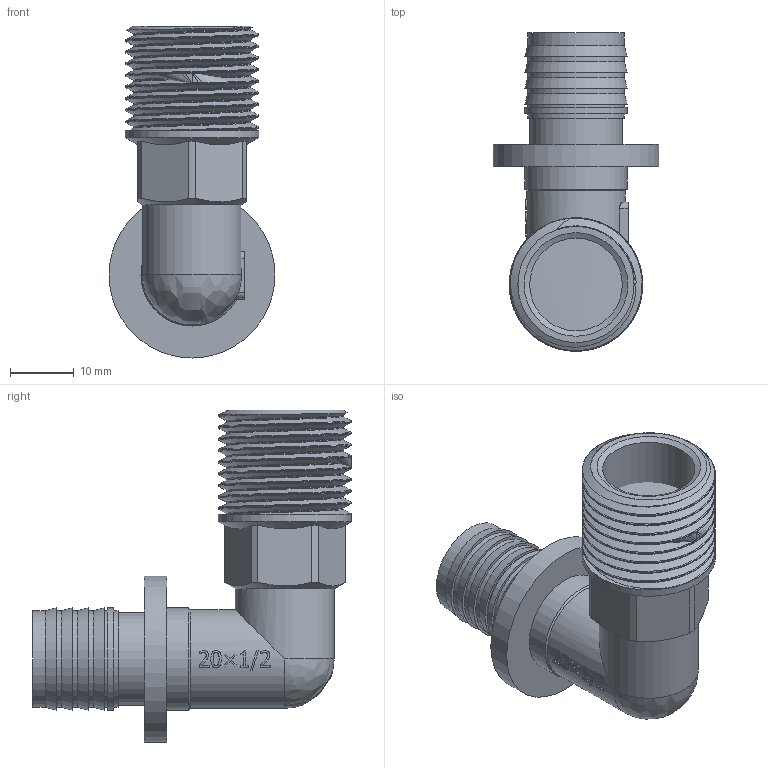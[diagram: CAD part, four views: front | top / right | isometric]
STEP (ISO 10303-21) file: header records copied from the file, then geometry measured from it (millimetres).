
FILE_DESCRIPTION(/* description */ (''),/* implementation_level */ '2;1');
FILE_NAME(/* name */ 'C:\Users\Doom\Desktop\Фадотех\Натяжка\FD-SFU12 NEW 20X0.5M 18.12.2019\FD-SFU12 NEW 20X0.5M 18.12.2019.stp',/* time_stamp */ '2022-07-24T23:10:41+03:00',/* author */ ('Doom'),/* organization */ (''),/* preprocessor_version */ 'ST-DEVELOPER v18',/* originating_system */ 'Autodesk Inventor 2020',/* authorisation */ '');
FILE_SCHEMA (('AUTOMOTIVE_DESIGN { 1 0 10303 214 3 1 1 }'));
Length unit declared in the file: millimetre
Products named in the file (1): FD-SFU12 NEW 20X0.5M 18.12.2019
Bounding box: 26 x 49.95 x 52 mm (x, y, z)
Volume: 10605.3 mm3; surface area: 11159.6 mm2
Topology: 2 solids, 2 shells, 182 faces, 506 edges, 343 vertices
Faces by surface type: bspline 65, plane 64, cylinder 41, cone 12
Full cylindrical faces by diameter (mm): 10.8 x2, 14.5 x2, 15.1 x6, 15.5 x2, 16 x2, 18.21 x2, 20.9 x9, 26 x1
Entity records: 11984 total; most frequent: CARTESIAN_POINT 7693, ORIENTED_EDGE 1006, DIRECTION 679, EDGE_CURVE 503, VERTEX_POINT 343, AXIS2_PLACEMENT_3D 234, LINE 211, VECTOR 211
